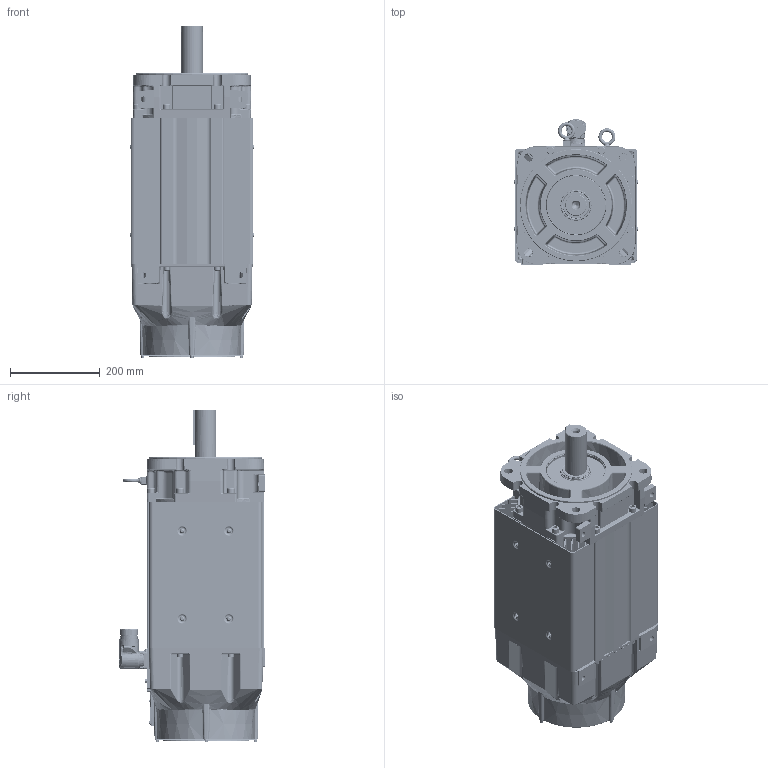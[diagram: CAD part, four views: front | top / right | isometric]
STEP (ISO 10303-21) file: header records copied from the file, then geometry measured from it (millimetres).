
FILE_DESCRIPTION((''),'2;1');
FILE_NAME('VPC-B30029-QJ14FX_ASM','2016-09-27T',('SRGaddam'),('Rockwell Automation'),'PRO/ENGINEER BY PARAMETRIC TECHNOLOGY CORPORATION, 2012480','PRO/ENGINEER BY PARAMETRIC TECHNOLOGY CORPORATION, 2012480','');
FILE_SCHEMA(('CONFIG_CONTROL_DESIGN'));
Products named in the file (38): 10001404634_AF0; 10001404629_AF6; 10001404635_ASM; 10001585735; 10001441958; 10001737030; 10001448101; 10001587021; 10001405269_AF71; 10001405240_AF78; 10001405369_ASM; 10001946256; 10001956852; 10001989665; 10001713549_ASM; M4X7X14-SOCHD-CAP-SCR; 10001978970; 10001336508; 10001587431; CH4X063; 10001299929; 10001284567; 10000172464; 10001445961; 221404-Q12; 10000231113; 10002279234; 10001443420_ASM; 10001609981; 0002-5004; 10001586887; 10001439772; 0011-2084; 142408_740; PRT0002_740; 142408-1_740_ASM; M740_ASM; VPC-B30029-QJ14FX_ASM
Assembly tree (73 placements, depth 4):
  VPC-B30029-QJ14FX_ASM
    10001404635_ASM
      10001404634_AF0
      10001404629_AF6
    10001585735  x8
    10001441958
    10001737030
    10001448101  x2
    10001587021  x8
    10001405369_ASM
      10001405269_AF71
      10001405240_AF78
    10001443420_ASM
      10001946256
      10001713549_ASM
        10001956852
        10001989665
      M4X7X14-SOCHD-CAP-SCR  x4
      10001978970
      10001336508
      10001587431
      CH4X063  x2
      10001299929
      10001284567
      10000172464  x4
      10001445961
      221404-Q12  x5
      10000231113
      10002279234
    10001609981
    0002-5004  x2
    10001586887  x6
    10001439772
    0011-2084
    M740_ASM
      142408-1_740_ASM
        142408_740
        PRT0002_740
      221404-Q12  x4
Bounding box: 275.91 x 324.15 x 739.85 mm (x, y, z)
Volume: 12155268.6 mm3; surface area: 2959317 mm2
Topology: 79 solids, 80 shells, 7226 faces, 17062 edges, 10219 vertices
Faces by surface type: cylinder 2218, plane 2045, bspline 1177, cone 1054, torus 593, sphere 134, extrusion 5
Entity records: 206990 total; most frequent: CARTESIAN_POINT 89843, ORIENTED_EDGE 25106, DIRECTION 23080, EDGE_CURVE 12553, AXIS2_PLACEMENT_3D 8866, VERTEX_POINT 7725, EDGE_LOOP 5688, VECTOR 5348
